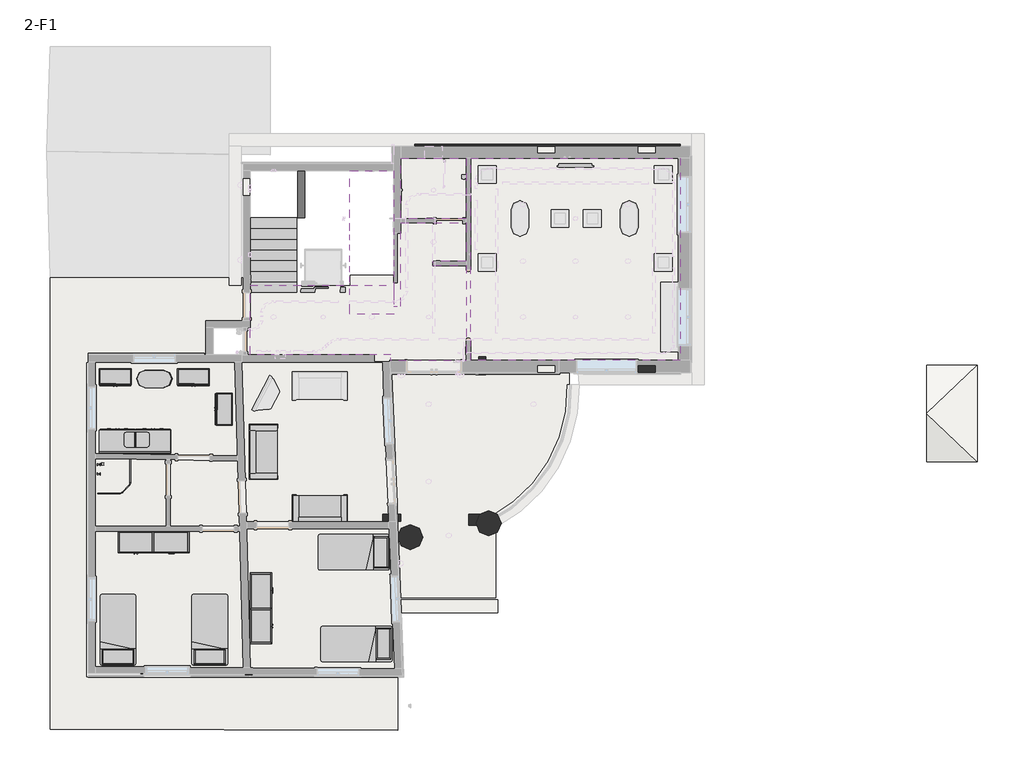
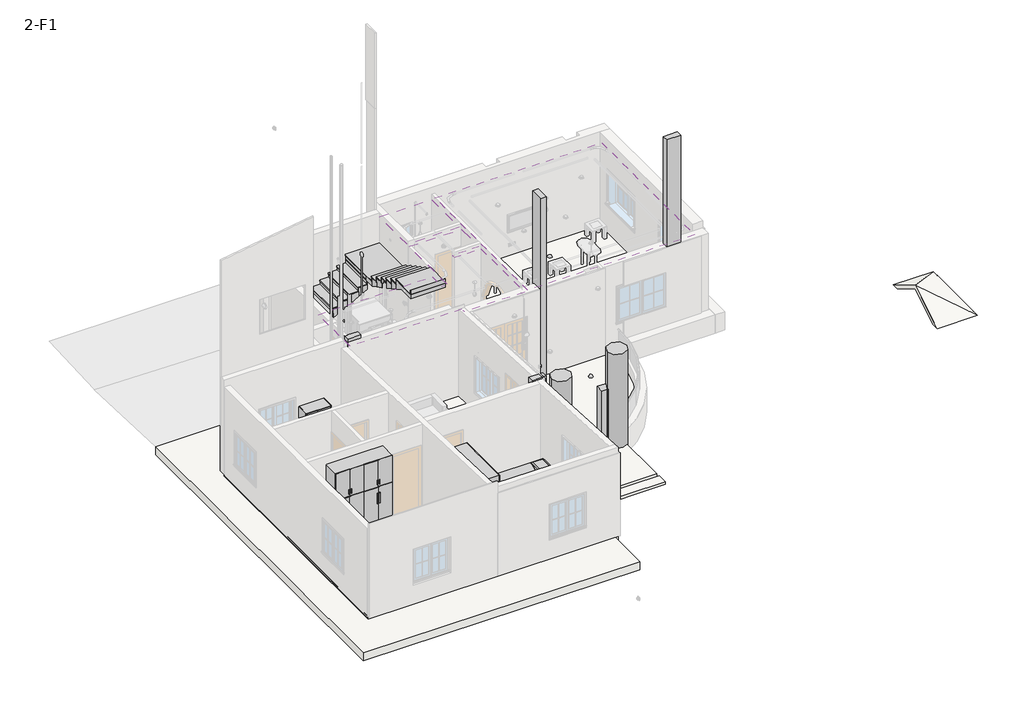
# One storey, part 3 of 6: 15 furniture elements, 7 columns, 3 coverings, 3 slabs, 3 stair flights, 2 flow terminals, 1 roof, 1 wall.
"""IFC4 building model written with IfcOpenShell, lengths in millimetres."""

from ifc_helpers import new_model, si_unit, point, frame, frame_2d, origin, place, context, project, spatial, polyline, circle_curve, trimmed, segment, composite_curve, outline, extrude, faceted_brep, transform, mapped, element, save
from components import bac_de_douche_au_sol_bac_de_douche_au_sol_997da0d4, cross_handle_shower_tap_set_3383_cross_handle_shower_tap_set_b0131e49, furniture_86dd63d7, furniture_1wardrobe_6271_1wardrobe_6271_757ea330, furniture_900mm_x_450mm_b3238755, bed_small_sizes_aus_single_small_9a9299e8, counter_top_w_sink_600mm_depth_2976168a, m_table_dining_oval_500x_1000mm_28df0ddd, vanity_cabinet_dbl_door_and_2_drawer_1000mm_7e6be740

model = new_model("IFC4")

# Units and contexts
model_context = context("Model", 3, world=origin())
ifc_project = project(units=[si_unit("LENGTHUNIT", "METRE", prefix="MILLI")], contexts=[model_context])

# Site, building, storey
site = spatial("IfcSite", under=ifc_project)
building = spatial("IfcBuilding", under=site)
storey = spatial("IfcBuildingStorey", under=building, Name="2-F1", Elevation=3000.0)

# Columns
placement = place(None, origin())
element("IfcColumn", 1, ObjectType="M_Concrete-Rectangular-Column : 200 x470mm", at=placement, inside=storey, context=model_context, shape_type="SweptSolid", body=[
    extrude(outline(polyline([(-5057.4765921, 3134.4560655), (-5057.4765921, 3334.4560655), (-4587.4765921, 3334.4560655), (-4587.4765921, 3134.4560655), (-5057.4765921, 3134.4560655)])), frame((0.0, 0.0, 3000.0), z_axis=(0.0, 0.0, 1.0), x_axis=(1.0, 0.0, 0.0)), (0.0, 0.0, 1.0), 3550.0),
])
element("IfcColumn", 2, ObjectType="M_Concrete-Rectangular-Column : 200 x500mm", at=placement, inside=storey, context=model_context, shape_type="Brep", body=[
    faceted_brep([(6542.5234079, 3030.6486583, 3000.0), (6542.5234079, 2830.6486583, 3000.0), (6042.5234079, 2830.6486583, 3000.0), (6042.5234079, 3030.6486583, 3000.0), (6542.5234079, 3030.6486583, 10300.0), (6542.5234079, 2830.6486583, 10300.0), (6542.5234079, 2830.6486583, 6300.0), (6542.5234079, 3030.6486583, 6300.0), (6542.5234079, 3030.6486583, 6550.0), (6542.5234079, 3030.6486583, 9900.0), (6042.5234079, 2830.6486583, 10300.0), (6042.5234079, 2830.6486583, 6300.0), (6042.5234079, 3030.6486583, 10300.0), (6042.5234079, 3030.6486583, 9900.0), (6042.5234079, 3030.6486583, 6550.0), (6042.5234079, 3030.6486583, 6300.0)], [[[0, 1, 2, 3]], [[4, 5, 6, 1, 0, 7, 8, 9]], [[5, 10, 11, 2, 1, 6]], [[10, 12, 13, 14, 15, 3, 2, 11]], [[12, 4, 9, 8, 7, 0, 3, 15, 14, 13]], [[4, 12, 10, 5]]]),
])
element("IfcColumn", 3, ObjectType="M_Concrete-Rectangular-Column : 200 x500mm", at=placement, inside=storey, context=model_context, shape_type="SweptSolid", body=[
    extrude(outline(polyline([(-1127.3482991, -1357.1632352), (-1127.3482991, -1157.1632352), (-627.3482991, -1157.1632352), (-627.3482991, -1357.1632352), (-1127.3482991, -1357.1632352)])), frame((0.0, 0.0, 3000.0), z_axis=(0.0, 0.0, 1.0), x_axis=(1.0, 0.0, 0.0)), (0.0, 0.0, 1.0), 3350.0),
])
element("IfcColumn", 4, ObjectType="M_Concrete-Rectangular-Column : 200 x500mm", at=placement, inside=storey, context=model_context, shape_type="SweptSolid", body=[
    extrude(outline(polyline([(1762.5234079, 2772.5523619), (1562.5234079, 2772.5523619), (1562.5234079, 3272.5523619), (1762.5234079, 3272.5523619), (1762.5234079, 2772.5523619)])), frame((0.0, 0.0, 3000.0), z_axis=(0.0, 0.0, 1.0), x_axis=(1.0, 0.0, 0.0)), (0.0, 0.0, 1.0), 6700.0),
])
element("IfcColumn", 5, ObjectType="M_Concrete-Rectangular-Column : 300 x300mm", at=placement, inside=storey, context=model_context, shape_type="SweptSolid", body=[
    extrude(outline(polyline([(1585.0321009, -1157.1632352), (1585.0321009, -1457.1632352), (1285.0321009, -1457.1632352), (1285.0321009, -1157.1632352), (1585.0321009, -1157.1632352)])), frame((0.0, 0.0, 3000.0), z_axis=(0.0, 0.0, 1.0), x_axis=(1.0, 0.0, 0.0)), (0.0, 0.0, 1.0), 2170.0),
])
element("IfcColumn", 6, ObjectType="M_Concrete-Round-Column : 700mm", at=placement, inside=storey, context=model_context, shape_type="SweptSolid", body=[
    extrude(outline(composite_curve([segment(trimmed(circle_curve(frame_2d((1841.661449, -1407.3470383)), 350.0), [point((2191.661449, -1407.3470383))], [point((1491.661449, -1407.3470383))], False, "CARTESIAN"), True, "CONTINUOUS"), segment(trimmed(circle_curve(frame_2d((1841.661449, -1407.3470383)), 350.0), [point((1491.661449, -1407.3470383))], [point((2191.661449, -1407.3470383))], False, "CARTESIAN"), True, "CONTINUOUS")], self_intersect=False)), frame((0.0, 0.0, 3000.0), z_axis=(0.0, 0.0, 1.0), x_axis=(1.0, 0.0, 0.0)), (0.0, 0.0, 1.0), 3550.0),
])
element("IfcColumn", 7, ObjectType="M_Concrete-Round-Column : 700mm", at=placement, inside=storey, context=model_context, shape_type="SweptSolid", body=[
    extrude(outline(composite_curve([segment(trimmed(circle_curve(frame_2d((-361.9654842, -1796.5977201)), 350.0), [point((-711.9654842, -1796.5977201))], [point((-11.9654842, -1796.5977201))], False, "CARTESIAN"), True, "CONTINUOUS"), segment(trimmed(circle_curve(frame_2d((-361.9654842, -1796.5977201)), 350.0), [point((-11.9654842, -1796.5977201))], [point((-711.9654842, -1796.5977201))], False, "CARTESIAN"), True, "CONTINUOUS")], self_intersect=False)), frame((0.0, 0.0, 3000.0), z_axis=(0.0, 0.0, 1.0), x_axis=(1.0, 0.0, 0.0)), (0.0, 0.0, 1.0), 3550.0),
])

# Coverings
element("IfcCovering", 8, ObjectType="Plain", at=placement, inside=storey, context=model_context, shape_type="SweptSolid", body=[
    extrude(outline(polyline([(1335.5234079, 8861.6620874), (7235.5234079, 8861.6620874), (7235.5234079, 3170.6486583), (1335.5234079, 3170.6486583), (1335.5234079, 8861.6620874)]), holes=[composite_curve([segment(trimmed(circle_curve(frame_2d((5760.5234079, 4390.5529852)), 55.0), [point((5815.5234079, 4390.5529852))], [point((5705.5234079, 4390.5529852))], True, "CARTESIAN"), True, "CONTINUOUS"), segment(trimmed(circle_curve(frame_2d((5760.5234079, 4390.5529852)), 55.0), [point((5705.5234079, 4390.5529852))], [point((5815.5234079, 4390.5529852))], True, "CARTESIAN"), True, "CONTINUOUS")], self_intersect=False), composite_curve([segment(trimmed(circle_curve(frame_2d((5760.5234079, 5961.6620874)), 55.0), [point((5815.5234079, 5961.6620874))], [point((5705.5234079, 5961.6620874))], True, "CARTESIAN"), True, "CONTINUOUS"), segment(trimmed(circle_curve(frame_2d((5760.5234079, 5961.6620874)), 55.0), [point((5705.5234079, 5961.6620874))], [point((5815.5234079, 5961.6620874))], True, "CARTESIAN"), True, "CONTINUOUS")], self_intersect=False), composite_curve([segment(trimmed(circle_curve(frame_2d((5760.5234079, 7558.7168012)), 55.0), [point((5815.5234079, 7558.7168012))], [point((5705.5234079, 7558.7168012))], True, "CARTESIAN"), True, "CONTINUOUS"), segment(trimmed(circle_curve(frame_2d((5760.5234079, 7558.7168012)), 55.0), [point((5705.5234079, 7558.7168012))], [point((5815.5234079, 7558.7168012))], True, "CARTESIAN"), True, "CONTINUOUS")], self_intersect=False), composite_curve([segment(trimmed(circle_curve(frame_2d((2810.5234079, 4390.5529852)), 55.0), [point((2865.5234079, 4390.5529852))], [point((2755.5234079, 4390.5529852))], True, "CARTESIAN"), True, "CONTINUOUS"), segment(trimmed(circle_curve(frame_2d((2810.5234079, 4390.5529852)), 55.0), [point((2755.5234079, 4390.5529852))], [point((2865.5234079, 4390.5529852))], True, "CARTESIAN"), True, "CONTINUOUS")], self_intersect=False), composite_curve([segment(trimmed(circle_curve(frame_2d((2810.5234079, 5961.6620874)), 55.0), [point((2865.5234079, 5961.6620874))], [point((2755.5234079, 5961.6620874))], True, "CARTESIAN"), True, "CONTINUOUS"), segment(trimmed(circle_curve(frame_2d((2810.5234079, 5961.6620874)), 55.0), [point((2755.5234079, 5961.6620874))], [point((2865.5234079, 5961.6620874))], True, "CARTESIAN"), True, "CONTINUOUS")], self_intersect=False), composite_curve([segment(trimmed(circle_curve(frame_2d((2810.5234079, 7558.7168012)), 55.0), [point((2865.5234079, 7558.7168012))], [point((2755.5234079, 7558.7168012))], True, "CARTESIAN"), True, "CONTINUOUS"), segment(trimmed(circle_curve(frame_2d((2810.5234079, 7558.7168012)), 55.0), [point((2755.5234079, 7558.7168012))], [point((2865.5234079, 7558.7168012))], True, "CARTESIAN"), True, "CONTINUOUS")], self_intersect=False), composite_curve([segment(trimmed(circle_curve(frame_2d((4285.5234079, 5961.6620874)), 55.0), [point((4340.5234079, 5961.6620874))], [point((4230.5234079, 5961.6620874))], True, "CARTESIAN"), True, "CONTINUOUS"), segment(trimmed(circle_curve(frame_2d((4285.5234079, 5961.6620874)), 55.0), [point((4230.5234079, 5961.6620874))], [point((4340.5234079, 5961.6620874))], True, "CARTESIAN"), True, "CONTINUOUS")], self_intersect=False)]), frame((0.0, 0.0, 6123.0), z_axis=(0.0, 0.0, 1.0), x_axis=(1.0, 0.0, 0.0)), (0.0, 0.0, 1.0), 12.0),
])
element("IfcCovering", 9, ObjectType="Plain", at=placement, inside=storey, context=model_context, shape_type="SweptSolid", body=[
    extrude(outline(polyline([(1215.5234079, 8861.6620874), (1215.5234079, 7161.6620874), (-627.4765921, 7161.6620874), (-627.4765921, 8861.6620874), (1215.5234079, 8861.6620874)])), frame((0.0, 0.0, 6100.0), z_axis=(0.0, 0.0, 1.0), x_axis=(1.0, 0.0, 0.0)), (0.0, 0.0, 1.0), 12.0),
])
element("IfcCovering", 10, ObjectType="Plain", at=placement, inside=storey, context=model_context, shape_type="SweptSolid", body=[
    extrude(outline(polyline([(1215.5234079, 7041.6620874), (1215.5234079, 5961.6620874), (272.5234079, 5961.6620874), (272.5234079, 5841.6620874), (1215.5234079, 5841.6620874), (1215.5234079, 3162.6789159), (-900.5286579, 3162.6789159), (-905.419474, 3326.4863231), (-4857.4765921, 3326.4863231), (-4857.4765921, 5284.4560655), (-827.4765921, 5284.4560655), (-827.4765921, 4701.6620874), (-627.4765921, 4701.6620874), (-627.4765921, 7041.6620874), (1215.5234079, 7041.6620874)]), holes=[composite_curve([segment(trimmed(circle_curve(frame_2d((-1442.4765921, 4390.5529852)), 75.0), [point((-1517.4765921, 4390.5529852))], [point((-1367.4765921, 4390.5529852))], True, "CARTESIAN"), True, "CONTINUOUS"), segment(trimmed(circle_curve(frame_2d((-1442.4765921, 4390.5529852)), 75.0), [point((-1367.4765921, 4390.5529852))], [point((-1517.4765921, 4390.5529852))], True, "CARTESIAN"), True, "CONTINUOUS")], self_intersect=False), composite_curve([segment(trimmed(circle_curve(frame_2d((-4207.4765921, 4390.5529852)), 75.0), [point((-4282.4765921, 4390.5529852))], [point((-4132.4765921, 4390.5529852))], True, "CARTESIAN"), True, "CONTINUOUS"), segment(trimmed(circle_curve(frame_2d((-4207.4765921, 4390.5529852)), 75.0), [point((-4132.4765921, 4390.5529852))], [point((-4282.4765921, 4390.5529852))], True, "CARTESIAN"), True, "CONTINUOUS")], self_intersect=False), composite_curve([segment(trimmed(circle_curve(frame_2d((294.0234079, 6501.6620874)), 75.0), [point((219.0234079, 6501.6620874))], [point((369.0234079, 6501.6620874))], True, "CARTESIAN"), True, "CONTINUOUS"), segment(trimmed(circle_curve(frame_2d((294.0234079, 6501.6620874)), 75.0), [point((369.0234079, 6501.6620874))], [point((219.0234079, 6501.6620874))], True, "CARTESIAN"), True, "CONTINUOUS")], self_intersect=False)]), frame((0.0, 0.0, 6100.0), z_axis=(0.0, 0.0, 1.0), x_axis=(1.0, 0.0, 0.0)), (0.0, 0.0, 1.0), 12.0),
])

# Flow terminals
bac_de_douche_au_sol_bac_de_douche_au_sol_shape = bac_de_douche_au_sol_bac_de_douche_au_sol_997da0d4(model_context)
element("IfcFlowTerminal", 11, ObjectType="Bac de douche au sol : Bac de douche au sol", at=placement, inside=storey, context=model_context, shape_type="MappedRepresentation", body=[
    mapped(bac_de_douche_au_sol_bac_de_douche_au_sol_shape, transform((-9153.0745328, 409.1211324, 3000.0), x_axis=(-1.0, 0.0, 0.0), y_axis=(0.0, -1.0, 0.0), z_axis=(0.0, 0.0, 1.0))),
])
cross_handle_shower_tap_set_3383_cross_handle_shower_tap_set_shape = cross_handle_shower_tap_set_3383_cross_handle_shower_tap_set_b0131e49(model_context)
element("IfcFlowTerminal", 12, ObjectType="cross_handle_shower_tap_set_3383 : cross_handle_shower_tap_set_3383", at=placement, inside=storey, context=model_context, shape_type="MappedRepresentation", body=[
    mapped(cross_handle_shower_tap_set_3383_cross_handle_shower_tap_set_shape, transform((-9160.0404392, 111.9069434, 3000.0), x_axis=(0.0, -1.0, 0.0), y_axis=(1.0, 0.0, 0.0), z_axis=(0.0, 0.0, 1.0))),
])

# Furniture
furniture_shape = furniture_86dd63d7(model_context)
element("IfcFurniture", 13, ObjectType="Couch_-_Le_Corbusier_Family_-_1_2_3_seater_9476 : 2 posti", at=placement, inside=storey, context=model_context, shape_type="MappedRepresentation", body=[
    mapped(furniture_shape, transform((-4657.4765921, 600.0, 3000.0), x_axis=(0.0, 1.0, 0.0), y_axis=(-1.0, 0.0, 0.0), z_axis=(0.0, 0.0, 1.0))),
])
element("IfcFurniture", 14, ObjectType="Couch_-_Le_Corbusier_Family_-_1_2_3_seater_9476 : 2 posti", at=placement, inside=storey, context=model_context, shape_type="MappedRepresentation", body=[
    mapped(furniture_shape, transform((-2900.8161495, -1181.5110619, 3000.0), x_axis=(-1.0, 0.0, 0.0), y_axis=(0.0, -1.0, 0.0), z_axis=(0.0, 0.0, 1.0))),
])
furniture_1wardrobe_6271_1wardrobe_6271_shape = furniture_1wardrobe_6271_1wardrobe_6271_757ea330(model_context)
element("IfcFurniture", 15, ObjectType="1Wardrobe_6271 : 1Wardrobe_6271", at=placement, inside=storey, context=model_context, shape_type="MappedRepresentation", body=[
    mapped(furniture_1wardrobe_6271_1wardrobe_6271_shape, transform((-8579.3966327, -1638.0930566, 3000.0), x_axis=(1.0, 0.0, 0.0), y_axis=(0.0, 1.0, 0.0), z_axis=(0.0, 0.0, 1.0))),
])
element("IfcFurniture", 16, ObjectType="1Wardrobe_6271 : 1Wardrobe_6271", at=placement, inside=storey, context=model_context, shape_type="MappedRepresentation", body=[
    mapped(furniture_1wardrobe_6271_1wardrobe_6271_shape, transform((-4857.4765921, -4800.0, 3000.0), x_axis=(0.0, 1.0, 0.0), y_axis=(-1.0, 0.0, 0.0), z_axis=(0.0, 0.0, 1.0))),
])
furniture_900mm_x_450mm_shape = furniture_900mm_x_450mm_b3238755(model_context)
element("IfcFurniture", 17, ObjectType="Bibliothèque armoire - Portes vitrées : 900mm x 450mm", at=placement, inside=storey, context=model_context, shape_type="MappedRepresentation", body=[
    mapped(furniture_900mm_x_450mm_shape, transform((-8757.4765921, 2659.4560655, 3000.0), x_axis=(1.0, 0.0, 0.0), y_axis=(0.0, 1.0, 0.0), z_axis=(0.0, 0.0, 1.0))),
])
element("IfcFurniture", 18, ObjectType="Bibliothèque armoire - Portes vitrées : 900mm x 450mm", at=placement, inside=storey, context=model_context, shape_type="MappedRepresentation", body=[
    mapped(furniture_900mm_x_450mm_shape, transform((-6557.4765921, 2659.4560655, 3000.0), x_axis=(1.0, 0.0, 0.0), y_axis=(0.0, 1.0, 0.0), z_axis=(0.0, 0.0, 1.0))),
])
element("IfcFurniture", 19, ObjectType="Bibliothèque armoire - Portes vitrées : 900mm x 450mm", at=placement, inside=storey, context=model_context, shape_type="MappedRepresentation", body=[
    mapped(furniture_900mm_x_450mm_shape, transform((-5647.9525349, 1900.0, 3000.0), x_axis=(0.0, -1.0, 0.0), y_axis=(1.0, 0.0, 0.0), z_axis=(0.0, 0.0, 1.0))),
])
bed_small_sizes_aus_single_small_shape = bed_small_sizes_aus_single_small_9a9299e8(model_context)
element("IfcFurniture", 20, ObjectType="Bed - Small Sizes (AUS) : Single small", at=placement, inside=storey, context=model_context, shape_type="MappedRepresentation", body=[
    mapped(bed_small_sizes_aus_single_small_shape, transform((-873.6704589, -4822.6740095, 3000.0), x_axis=(0.0, -1.0, 0.0), y_axis=(1.0, 0.0, 0.0), z_axis=(0.0, 0.0, 1.0))),
])
element("IfcFurniture", 21, ObjectType="Bed - Small Sizes (AUS) : Single small", at=placement, inside=storey, context=model_context, shape_type="MappedRepresentation", body=[
    mapped(bed_small_sizes_aus_single_small_shape, transform((-947.107039, -2243.4058395, 3000.0), x_axis=(0.0, -1.0, 0.0), y_axis=(1.0, 0.0, 0.0), z_axis=(0.0, 0.0, 1.0))),
])
element("IfcFurniture", 22, ObjectType="Bed - Small Sizes (AUS) : Single small", at=placement, inside=storey, context=model_context, shape_type="MappedRepresentation", body=[
    mapped(bed_small_sizes_aus_single_small_shape, transform((-8602.0706422, -5400.0, 3000.0), x_axis=(-1.0, 0.0, 0.0), y_axis=(0.0, -1.0, 0.0), z_axis=(0.0, 0.0, 1.0))),
])
element("IfcFurniture", 23, ObjectType="Bed - Small Sizes (AUS) : Single small", at=placement, inside=storey, context=model_context, shape_type="MappedRepresentation", body=[
    mapped(bed_small_sizes_aus_single_small_shape, transform((-6022.6740095, -5400.0, 3000.0), x_axis=(-1.0, 0.0, 0.0), y_axis=(0.0, -1.0, 0.0), z_axis=(0.0, 0.0, 1.0))),
])
counter_top_w_sink_600mm_depth_shape = counter_top_w_sink_600mm_depth_2976168a(model_context)
element("IfcFurniture", 24, ObjectType="Counter Top w Sink : 600mm Depth", at=placement, inside=storey, context=model_context, shape_type="MappedRepresentation", body=[
    mapped(counter_top_w_sink_600mm_depth_shape, transform((-8306.1670421, 579.827536, 3000.0), x_axis=(-1.0, 0.0, 0.0), y_axis=(0.0, -1.0, 0.0), z_axis=(0.0, 0.0, 1.0))),
])
m_table_dining_oval_500x_1000mm_shape = m_table_dining_oval_500x_1000mm_28df0ddd(model_context)
element("IfcFurniture", 25, ObjectType="M_Table-Dining Oval : 500x 1000mm", at=placement, inside=storey, context=model_context, shape_type="MappedRepresentation", body=[
    mapped(m_table_dining_oval_500x_1000mm_shape, transform((-7155.946773, 3008.0983607, 3000.0), x_axis=(1.0, 0.0, 0.0), y_axis=(0.0, 1.0, 0.0), z_axis=(0.0, 0.0, 1.0))),
])
vanity_cabinet_dbl_door_and_2_drawer_1000mm_shape = vanity_cabinet_dbl_door_and_2_drawer_1000mm_7e6be740(model_context)
element("IfcFurniture", 26, ObjectType="Vanity Cabinet - Dbl Door and 2 Drawer : 1000mm", at=placement, inside=storey, context=model_context, shape_type="MappedRepresentation", body=[
    mapped(vanity_cabinet_dbl_door_and_2_drawer_1000mm_shape, transform((-8576.2142971, 559.827536, 3000.0), x_axis=(-1.0, 0.0, 0.0), y_axis=(0.0, -1.0, 0.0), z_axis=(0.0, 0.0, 1.0))),
])
element("IfcFurniture", 27, ObjectType="Vanity Cabinet - Dbl Door and 2 Drawer : 1000mm", at=placement, inside=storey, context=model_context, shape_type="MappedRepresentation", body=[
    mapped(vanity_cabinet_dbl_door_and_2_drawer_1000mm_shape, transform((-7576.2142971, 559.827536, 3000.0), x_axis=(-1.0, 0.0, 0.0), y_axis=(0.0, -1.0, 0.0), z_axis=(0.0, 0.0, 1.0))),
])

# Roof
element("IfcRoof", 28, ObjectType="Generic - 125mm", at=placement, inside=storey, context=model_context, shape_type="Brep", body=[
    faceted_brep([(14169.4996553, 1679.1737113, 2569.8944149), (15332.7936788, 2785.2573228, 1915.1528001), (15336.026366, 2788.3310275, 1913.3333333), (15336.026366, 570.0163952, 1913.3333333), (15332.7936788, 573.0900999, 1915.1528001), (14169.4996553, 573.0900999, 1915.1528001), (14169.4996553, 2785.2573228, 1915.1528001), (15587.6448029, 3030.6486583, 1915.1528001), (14169.4996553, 1682.247416, 2713.3333333), (14169.4996553, 1676.1000067, 2713.3333333), (15587.6448029, 327.6987644, 1915.1528001), (15587.6448029, 573.0900999, 1915.1528001), (15590.87749, 570.0163952, 1913.3333333), (15590.87749, 2788.3310275, 1913.3333333), (15587.6448029, 2785.2573228, 1915.1528001), (14169.4996553, 327.6987644, 1915.1528001), (14169.4996553, 3030.6486583, 1915.1528001)], [[[0, 1, 2, 3, 4]], [[0, 4, 5]], [[1, 0, 6]], [[7, 8, 9, 10, 11, 12, 13, 14]], [[10, 9, 15]], [[8, 7, 16]], [[9, 8, 16, 6, 0, 5, 15]], [[14, 1, 6, 16, 7]], [[1, 14, 13, 2]], [[4, 11, 10, 15, 5]], [[11, 4, 3, 12]], [[3, 2, 13, 12]]]),
])

# Slabs
element("IfcSlab", 29, ObjectType="Arch Floor on F1 300mm", at=placement, inside=storey, context=model_context, shape_type="SweptSolid", body=[
    extrude(outline(composite_curve([segment(polyline([(-9417.4765921, -2071.7376462), (-9417.4765921, 3334.4560655), (-5907.4765921, 3334.4560655), (-5907.4765921, 3134.4560655), (-5057.4765921, 3134.4560655), (-5057.4765921, 4084.4560655), (-5057.4765921, 4599.8845983), (-5057.4765921, 8701.6620874), (-827.4765921, 8701.6620874), (-827.4765921, 9201.6620874), (-627.4765921, 9201.6620874), (3212.5234079, 9201.6620874), (3712.5234079, 9201.6620874), (6042.5234079, 9201.6620874), (6542.5234079, 9201.6620874), (7042.5280203, 9201.6620874), (7235.5234079, 9201.6620874), (7235.5234079, 8861.6620874), (7235.5234079, 2899.8015953), (7147.8774899, 2899.8015953), (7147.8774899, 2830.6486583), (4103.8034592, 2830.6486583)]), True, "CONTINUOUS"), segment(trimmed(circle_curve(frame_2d((61.178433, 2319.2750863)), 4074.8398782), [point((4103.8034592, 2830.6486583))], [point((2046.2805902, -1239.3327115))], False, "CARTESIAN"), True, "CONTINUOUS"), segment(polyline([(2046.2805902, -1239.3327115), (2046.2805902, -3502.0661424), (-702.5746226, -3502.0661424), (-587.99344, -5705.3167452), (-9417.4765921, -5625.3267977), (-9417.4765921, -2071.7376462)]), True, "CONTINUOUS")], self_intersect=False), holes=[polyline([(-4857.4765921, 8501.6620874), (-4857.4765921, 5484.4560655), (-3557.4765921, 5484.4560655), (-3557.4765921, 5284.4560655), (-2057.4765921, 5284.4560655), (-2057.4765921, 5584.4560655), (-827.4765921, 5584.4560655), (-827.4765921, 8501.6620874), (-4857.4765921, 8501.6620874)])]), frame((0.0, 0.0, 2750.0), z_axis=(0.0, 0.0, 1.0), x_axis=(1.0, 0.0, 0.0)), (0.0, 0.0, 1.0), 300.0),
])
element("IfcSlab", 30, ObjectType="Generic 100", at=placement, inside=storey, context=model_context, shape_type="SweptSolid", body=[
    extrude(outline(polyline([(2096.2825594, -3552.0661424), (2096.2825594, -3927.0661424), (-648.4232052, -3927.0661424), (-659.1001553, -3552.0661424), (2096.2825594, -3552.0661424)])), frame((0.0, 0.0, 2900.0), z_axis=(0.0, 0.0, 1.0), x_axis=(1.0, 0.0, 0.0)), (0.0, 0.0, 1.0), 100.0),
])
element("IfcSlab", 31, ObjectType="Generic 250mm", at=placement, inside=storey, context=model_context, shape_type="SweptSolid", body=[
    extrude(outline(polyline([(-709.3951562, -7229.5418342), (-10479.3966327, -7201.305082), (-10479.3966327, 5498.694918), (-5057.4765921, 5498.694918), (-5057.4765921, 4084.4560655), (-6107.4765921, 4084.4560655), (-6107.4765921, 3126.4863231), (-9467.4765921, 3126.4863231), (-9467.4765921, -5734.0873245), (-709.3951562, -5734.0873245), (-709.3951562, -7229.5418342)])), frame((0.0, 0.0, 2700.0), z_axis=(0.0, 0.0, 1.0), x_axis=(1.0, 0.0, 0.0)), (0.0, 0.0, 1.0), 300.0),
])

# Stair flights
element("IfcStairFlight", 32, ObjectType="150mm Depth", at=placement, inside=storey, context=model_context, shape_type="SolidModel", body=[
    faceted_brep([(-4857.4765921, 5416.9560655, 3131.3636364), (-4857.4765921, 5116.9560655, 3131.3636364), (-3557.4765921, 5116.9560655, 3131.3636364), (-3557.4765921, 5416.9560655, 3131.3636364), (-4857.4765921, 5416.9560655, 3000.0), (-4857.4765921, 5116.9560655, 3000.0), (-3557.4765921, 5116.9560655, 3000.0), (-3557.4765921, 5416.9560655, 3000.0), (-4857.4765921, 5716.9560655, 3292.7272727), (-4857.4765921, 5416.9560655, 3292.7272727), (-3557.4765921, 5416.9560655, 3292.7272727), (-3557.4765921, 5716.9560655, 3292.7272727), (-4857.4765921, 5716.9560655, 3122.4053546), (-4857.4765921, 5489.385547, 3000.0), (-3557.4765921, 5489.385547, 3000.0), (-3557.4765921, 5716.9560655, 3122.4053546), (-4857.4765921, 6016.9560655, 3454.0909091), (-4857.4765921, 5716.9560655, 3454.0909091), (-3557.4765921, 5716.9560655, 3454.0909091), (-3557.4765921, 6016.9560655, 3454.0909091), (-4857.4765921, 6016.9560655, 3283.768991), (-3557.4765921, 6016.9560655, 3283.768991), (-4857.4765921, 6316.9560655, 3615.4545455), (-4857.4765921, 6016.9560655, 3615.4545455), (-3557.4765921, 6016.9560655, 3615.4545455), (-3557.4765921, 6316.9560655, 3615.4545455), (-4857.4765921, 6316.9560655, 3445.1326274), (-3557.4765921, 6316.9560655, 3445.1326274), (-4857.4765921, 6616.9560655, 3776.8181818), (-4857.4765921, 6316.9560655, 3776.8181818), (-3557.4765921, 6316.9560655, 3776.8181818), (-3557.4765921, 6616.9560655, 3776.8181818), (-4857.4765921, 6616.9560655, 3606.4962637), (-3557.4765921, 6616.9560655, 3606.4962637), (-4857.4765921, 6916.9560655, 3938.1818182), (-4857.4765921, 6616.9560655, 3938.1818182), (-3557.4765921, 6616.9560655, 3938.1818182), (-3557.4765921, 6916.9560655, 3938.1818182), (-4857.4765921, 6916.9560655, 3767.8599001), (-3557.4765921, 6916.9560655, 3767.8599001), (-4857.4765921, 7184.4560655, 3911.7424758), (-3557.4765921, 7184.4560655, 3911.7424758), (-4857.4765921, 7184.4560655, 4099.5454545), (-4857.4765921, 6916.9560655, 4099.5454545), (-3557.4765921, 6916.9560655, 4099.5454545), (-3557.4765921, 7184.4560655, 4099.5454545)], [[[0, 1, 2, 3]], [[1, 0, 4, 5]], [[2, 1, 5, 6]], [[3, 2, 6, 7]], [[8, 9, 10, 11]], [[4, 0, 9, 8, 12, 13]], [[0, 3, 10, 9]], [[3, 7, 14, 15, 11, 10]], [[16, 17, 18, 19]], [[17, 16, 20, 12, 8]], [[8, 11, 18, 17]], [[19, 18, 11, 15, 21]], [[22, 23, 24, 25]], [[23, 22, 26, 20, 16]], [[16, 19, 24, 23]], [[25, 24, 19, 21, 27]], [[28, 29, 30, 31]], [[29, 28, 32, 26, 22]], [[22, 25, 30, 29]], [[31, 30, 25, 27, 33]], [[34, 35, 36, 37]], [[35, 34, 38, 32, 28]], [[28, 31, 36, 35]], [[37, 36, 31, 33, 39]], [[5, 4, 13, 14, 7, 6]], [[14, 13, 12, 20, 26, 32, 38, 40, 41, 39, 33, 27, 21, 15]], [[42, 43, 44, 45]], [[43, 42, 40, 38, 34]], [[34, 37, 44, 43]], [[45, 44, 37, 39, 41]], [[42, 45, 41, 40]]]),
    extrude(outline(polyline([(-3557.4765921, 5116.9560655), (-3557.4765921, 5104.4560655), (-4857.4765921, 5104.4560655), (-4857.4765921, 5116.9560655), (-3557.4765921, 5116.9560655)])), frame((0.0, 0.0, 3000.0), z_axis=(0.0, 0.0, 1.0), x_axis=(1.0, 0.0, 0.0)), (0.0, 0.0, 1.0), 131.3636364),
    extrude(outline(polyline([(-4857.4765921, 5404.4560655), (-3557.4765921, 5404.4560655), (-3557.4765921, 5084.4560655), (-4857.4765921, 5084.4560655), (-4857.4765921, 5404.4560655)])), frame((0.0, 0.0, 3131.3636364), z_axis=(0.0, 0.0, 1.0), x_axis=(1.0, 0.0, 0.0)), (0.0, 0.0, 1.0), 30.0),
    extrude(outline(polyline([(-3557.4765921, 5416.9560655), (-3557.4765921, 5404.4560655), (-4857.4765921, 5404.4560655), (-4857.4765921, 5416.9560655), (-3557.4765921, 5416.9560655)])), frame((0.0, 0.0, 3131.3636364), z_axis=(0.0, 0.0, 1.0), x_axis=(1.0, 0.0, 0.0)), (0.0, 0.0, 1.0), 161.3636364),
    extrude(outline(polyline([(-4857.4765921, 5704.4560655), (-3557.4765921, 5704.4560655), (-3557.4765921, 5384.4560655), (-4857.4765921, 5384.4560655), (-4857.4765921, 5704.4560655)])), frame((0.0, 0.0, 3292.7272727), z_axis=(0.0, 0.0, 1.0), x_axis=(1.0, 0.0, 0.0)), (0.0, 0.0, 1.0), 30.0),
    extrude(outline(polyline([(-3557.4765921, 5716.9560655), (-3557.4765921, 5704.4560655), (-4857.4765921, 5704.4560655), (-4857.4765921, 5716.9560655), (-3557.4765921, 5716.9560655)])), frame((0.0, 0.0, 3292.7272727), z_axis=(0.0, 0.0, 1.0), x_axis=(1.0, 0.0, 0.0)), (0.0, 0.0, 1.0), 161.3636364),
    extrude(outline(polyline([(-4857.4765921, 6004.4560655), (-3557.4765921, 6004.4560655), (-3557.4765921, 5684.4560655), (-4857.4765921, 5684.4560655), (-4857.4765921, 6004.4560655)])), frame((0.0, 0.0, 3454.0909091), z_axis=(0.0, 0.0, 1.0), x_axis=(1.0, 0.0, 0.0)), (0.0, 0.0, 1.0), 30.0),
    extrude(outline(polyline([(-3557.4765921, 6016.9560655), (-3557.4765921, 6004.4560655), (-4857.4765921, 6004.4560655), (-4857.4765921, 6016.9560655), (-3557.4765921, 6016.9560655)])), frame((0.0, 0.0, 3454.0909091), z_axis=(0.0, 0.0, 1.0), x_axis=(1.0, 0.0, 0.0)), (0.0, 0.0, 1.0), 161.3636364),
    extrude(outline(polyline([(-4857.4765921, 6304.4560655), (-3557.4765921, 6304.4560655), (-3557.4765921, 5984.4560655), (-4857.4765921, 5984.4560655), (-4857.4765921, 6304.4560655)])), frame((0.0, 0.0, 3615.4545455), z_axis=(0.0, 0.0, 1.0), x_axis=(1.0, 0.0, 0.0)), (0.0, 0.0, 1.0), 30.0),
    extrude(outline(polyline([(-3557.4765921, 6316.9560655), (-3557.4765921, 6304.4560655), (-4857.4765921, 6304.4560655), (-4857.4765921, 6316.9560655), (-3557.4765921, 6316.9560655)])), frame((0.0, 0.0, 3615.4545455), z_axis=(0.0, 0.0, 1.0), x_axis=(1.0, 0.0, 0.0)), (0.0, 0.0, 1.0), 161.3636364),
    extrude(outline(polyline([(-4857.4765921, 6604.4560655), (-3557.4765921, 6604.4560655), (-3557.4765921, 6284.4560655), (-4857.4765921, 6284.4560655), (-4857.4765921, 6604.4560655)])), frame((0.0, 0.0, 3776.8181818), z_axis=(0.0, 0.0, 1.0), x_axis=(1.0, 0.0, 0.0)), (0.0, 0.0, 1.0), 30.0),
    extrude(outline(polyline([(-3557.4765921, 6616.9560655), (-3557.4765921, 6604.4560655), (-4857.4765921, 6604.4560655), (-4857.4765921, 6616.9560655), (-3557.4765921, 6616.9560655)])), frame((0.0, 0.0, 3776.8181818), z_axis=(0.0, 0.0, 1.0), x_axis=(1.0, 0.0, 0.0)), (0.0, 0.0, 1.0), 161.3636364),
    extrude(outline(polyline([(-4857.4765921, 6904.4560655), (-3557.4765921, 6904.4560655), (-3557.4765921, 6584.4560655), (-4857.4765921, 6584.4560655), (-4857.4765921, 6904.4560655)])), frame((0.0, 0.0, 3938.1818182), z_axis=(0.0, 0.0, 1.0), x_axis=(1.0, 0.0, 0.0)), (0.0, 0.0, 1.0), 30.0),
    extrude(outline(polyline([(-3557.4765921, 6916.9560655), (-3557.4765921, 6904.4560655), (-4857.4765921, 6904.4560655), (-4857.4765921, 6916.9560655), (-3557.4765921, 6916.9560655)])), frame((0.0, 0.0, 3938.1818182), z_axis=(0.0, 0.0, 1.0), x_axis=(1.0, 0.0, 0.0)), (0.0, 0.0, 1.0), 161.3636364),
    extrude(outline(polyline([(-4857.4765921, 7184.4560655), (-3557.4765921, 7184.4560655), (-3557.4765921, 6884.4560655), (-4857.4765921, 6884.4560655), (-4857.4765921, 7184.4560655)])), frame((0.0, 0.0, 4099.5454545), z_axis=(0.0, 0.0, 1.0), x_axis=(1.0, 0.0, 0.0)), (0.0, 0.0, 1.0), 30.0),
])
element("IfcStairFlight", 33, ObjectType="150mm Depth", at=placement, inside=storey, context=model_context, shape_type="SolidModel", body=[
    faceted_brep([(-3224.9765921, 8501.6620874, 4422.2727273), (-3524.9765921, 8501.6620874, 4422.2727273), (-3524.9765921, 7184.4560655, 4422.2727273), (-3224.9765921, 7184.4560655, 4422.2727273), (-3224.9765921, 8501.6620874, 4251.9508092), (-3524.9765921, 8501.6620874, 4090.5871728), (-3524.9765921, 7184.4560655, 4090.5871728), (-3224.9765921, 7184.4560655, 4251.9508092), (-2924.9765921, 8501.6620874, 4583.6363636), (-3224.9765921, 8501.6620874, 4583.6363636), (-3224.9765921, 7184.4560655, 4583.6363636), (-2924.9765921, 7184.4560655, 4583.6363636), (-2924.9765921, 8501.6620874, 4413.3144455), (-2924.9765921, 7184.4560655, 4413.3144455), (-2624.9765921, 8501.6620874, 4745.0), (-2924.9765921, 8501.6620874, 4745.0), (-2924.9765921, 7184.4560655, 4745.0), (-2624.9765921, 7184.4560655, 4745.0), (-2624.9765921, 8501.6620874, 4574.6780819), (-2624.9765921, 7184.4560655, 4574.6780819), (-2324.9765921, 8501.6620874, 4906.3636364), (-2624.9765921, 8501.6620874, 4906.3636364), (-2624.9765921, 7184.4560655, 4906.3636364), (-2324.9765921, 7184.4560655, 4906.3636364), (-2324.9765921, 8501.6620874, 4736.0417183), (-2324.9765921, 7184.4560655, 4736.0417183), (-2024.9765921, 8501.6620874, 5067.7272727), (-2324.9765921, 8501.6620874, 5067.7272727), (-2324.9765921, 7184.4560655, 5067.7272727), (-2024.9765921, 7184.4560655, 5067.7272727), (-2024.9765921, 8501.6620874, 4897.4053546), (-2024.9765921, 7184.4560655, 4897.4053546)], [[[0, 1, 2, 3]], [[1, 0, 4, 5]], [[2, 1, 5, 6]], [[3, 2, 6, 7]], [[8, 9, 10, 11]], [[9, 8, 12, 4, 0]], [[10, 9, 0, 3]], [[11, 10, 3, 7, 13]], [[14, 15, 16, 17]], [[15, 14, 18, 12, 8]], [[16, 15, 8, 11]], [[17, 16, 11, 13, 19]], [[20, 21, 22, 23]], [[21, 20, 24, 18, 14]], [[22, 21, 14, 17]], [[23, 22, 17, 19, 25]], [[26, 27, 28, 29]], [[27, 26, 30, 24, 20]], [[28, 27, 20, 23]], [[29, 28, 23, 25, 31]], [[26, 29, 31, 30]], [[5, 4, 12, 18, 24, 30, 31, 25, 19, 13, 7, 6]]]),
    extrude(outline(polyline([(-3524.9765921, 7184.4560655), (-3537.4765921, 7184.4560655), (-3537.4765921, 8501.6620874), (-3524.9765921, 8501.6620874), (-3524.9765921, 7184.4560655)])), frame((0.0, 0.0, 4290.9090909), z_axis=(0.0, 0.0, 1.0), x_axis=(1.0, 0.0, 0.0)), (0.0, 0.0, 1.0), 131.3636364),
    extrude(outline(polyline([(-3237.4765921, 8501.6620874), (-3237.4765921, 7184.4560655), (-3557.4765921, 7184.4560655), (-3557.4765921, 8501.6620874), (-3237.4765921, 8501.6620874)])), frame((0.0, 0.0, 4422.2727273), z_axis=(0.0, 0.0, 1.0), x_axis=(1.0, 0.0, 0.0)), (0.0, 0.0, 1.0), 30.0),
    extrude(outline(polyline([(-3224.9765921, 7184.4560655), (-3237.4765921, 7184.4560655), (-3237.4765921, 8501.6620874), (-3224.9765921, 8501.6620874), (-3224.9765921, 7184.4560655)])), frame((0.0, 0.0, 4422.2727273), z_axis=(0.0, 0.0, 1.0), x_axis=(1.0, 0.0, 0.0)), (0.0, 0.0, 1.0), 161.3636364),
    extrude(outline(polyline([(-2937.4765921, 8501.6620874), (-2937.4765921, 7184.4560655), (-3257.4765921, 7184.4560655), (-3257.4765921, 8501.6620874), (-2937.4765921, 8501.6620874)])), frame((0.0, 0.0, 4583.6363636), z_axis=(0.0, 0.0, 1.0), x_axis=(1.0, 0.0, 0.0)), (0.0, 0.0, 1.0), 30.0),
    extrude(outline(polyline([(-2924.9765921, 7184.4560655), (-2937.4765921, 7184.4560655), (-2937.4765921, 8501.6620874), (-2924.9765921, 8501.6620874), (-2924.9765921, 7184.4560655)])), frame((0.0, 0.0, 4583.6363636), z_axis=(0.0, 0.0, 1.0), x_axis=(1.0, 0.0, 0.0)), (0.0, 0.0, 1.0), 161.3636364),
    extrude(outline(polyline([(-2637.4765921, 8501.6620874), (-2637.4765921, 7184.4560655), (-2957.4765921, 7184.4560655), (-2957.4765921, 8501.6620874), (-2637.4765921, 8501.6620874)])), frame((0.0, 0.0, 4745.0), z_axis=(0.0, 0.0, 1.0), x_axis=(1.0, 0.0, 0.0)), (0.0, 0.0, 1.0), 30.0),
    extrude(outline(polyline([(-2624.9765921, 7184.4560655), (-2637.4765921, 7184.4560655), (-2637.4765921, 8501.6620874), (-2624.9765921, 8501.6620874), (-2624.9765921, 7184.4560655)])), frame((0.0, 0.0, 4745.0), z_axis=(0.0, 0.0, 1.0), x_axis=(1.0, 0.0, 0.0)), (0.0, 0.0, 1.0), 161.3636364),
    extrude(outline(polyline([(-2337.4765921, 8501.6620874), (-2337.4765921, 7184.4560655), (-2657.4765921, 7184.4560655), (-2657.4765921, 8501.6620874), (-2337.4765921, 8501.6620874)])), frame((0.0, 0.0, 4906.3636364), z_axis=(0.0, 0.0, 1.0), x_axis=(1.0, 0.0, 0.0)), (0.0, 0.0, 1.0), 30.0),
    extrude(outline(polyline([(-2324.9765921, 7184.4560655), (-2337.4765921, 7184.4560655), (-2337.4765921, 8501.6620874), (-2324.9765921, 8501.6620874), (-2324.9765921, 7184.4560655)])), frame((0.0, 0.0, 4906.3636364), z_axis=(0.0, 0.0, 1.0), x_axis=(1.0, 0.0, 0.0)), (0.0, 0.0, 1.0), 161.3636364),
    extrude(outline(polyline([(-2024.9765921, 7184.4560655), (-2037.4765921, 7184.4560655), (-2037.4765921, 8501.6620874), (-2024.9765921, 8501.6620874), (-2024.9765921, 7184.4560655)])), frame((0.0, 0.0, 5067.7272727), z_axis=(0.0, 0.0, 1.0), x_axis=(1.0, 0.0, 0.0)), (0.0, 0.0, 1.0), 161.3636364),
    extrude(outline(polyline([(-2037.4765921, 8501.6620874), (-2037.4765921, 7184.4560655), (-2357.4765921, 7184.4560655), (-2357.4765921, 8501.6620874), (-2037.4765921, 8501.6620874)])), frame((0.0, 0.0, 5067.7272727), z_axis=(0.0, 0.0, 1.0), x_axis=(1.0, 0.0, 0.0)), (0.0, 0.0, 1.0), 30.0),
])
element("IfcStairFlight", 34, ObjectType="150mm Depth", at=placement, inside=storey, context=model_context, shape_type="SolidModel", body=[
    faceted_brep([(-827.4765921, 6851.9560655, 5390.4545455), (-827.4765921, 8501.6620874, 5390.4545455), (-2024.9765921, 8501.6620874, 5390.4545455), (-2024.9765921, 7184.4560655, 5390.4545455), (-2057.4765921, 7184.4560655, 5390.4545455), (-2057.4765921, 6851.9560655, 5390.4545455), (-827.4765921, 6851.9560655, 5240.4545455), (-827.4765921, 8501.6620874, 5240.4545455), (-2024.9765921, 8501.6620874, 5240.4545455), (-2024.9765921, 7184.4560655, 5240.4545455), (-2057.4765921, 7184.4560655, 5240.4545455), (-2057.4765921, 6851.9560655, 5240.4545455), (-827.4765921, 6814.1744712, 5240.4545455), (-2057.4765921, 6814.1744712, 5240.4545455), (-827.4765921, 5351.9560655, 6358.6363636), (-2057.4765921, 5351.9560655, 6358.6363636), (-2057.4765921, 5014.1744712, 6358.6363636), (-2057.4765921, 4469.1620874, 6358.6363636), (-827.4765921, 4469.1620874, 6358.6363636), (-827.4765921, 5014.1744712, 6358.6363636), (-827.4765921, 5351.9560655, 6197.2727273), (-827.4765921, 4469.1620874, 6208.6363636), (-827.4765921, 5014.1744712, 6208.6363636), (-827.4765921, 5351.9560655, 6026.9508092), (-2057.4765921, 5351.9560655, 6197.2727273), (-2057.4765921, 5351.9560655, 6026.9508092), (-2057.4765921, 5014.1744712, 6208.6363636), (-2057.4765921, 4469.1620874, 6208.6363636), (-827.4765921, 6551.9560655, 5381.4962637), (-827.4765921, 6251.9560655, 5542.8599001), (-827.4765921, 5951.9560655, 5704.2235364), (-827.4765921, 5651.9560655, 5865.5871728), (-2057.4765921, 5651.9560655, 5865.5871728), (-2057.4765921, 5951.9560655, 5704.2235364), (-2057.4765921, 6251.9560655, 5542.8599001), (-2057.4765921, 6551.9560655, 5381.4962637), (-827.4765921, 6851.9560655, 5551.8181818), (-2057.4765921, 6851.9560655, 5551.8181818), (-2057.4765921, 6814.1744712, 5551.8181818), (-2057.4765921, 6551.9560655, 5551.8181818), (-827.4765921, 6551.9560655, 5551.8181818), (-827.4765921, 6814.1744712, 5551.8181818), (-827.4765921, 6251.9560655, 5713.1818182), (-827.4765921, 6551.9560655, 5713.1818182), (-2057.4765921, 6551.9560655, 5713.1818182), (-2057.4765921, 6251.9560655, 5713.1818182), (-827.4765921, 5951.9560655, 5874.5454545), (-827.4765921, 6251.9560655, 5874.5454545), (-2057.4765921, 6251.9560655, 5874.5454545), (-2057.4765921, 5951.9560655, 5874.5454545), (-827.4765921, 5651.9560655, 6035.9090909), (-827.4765921, 5951.9560655, 6035.9090909), (-2057.4765921, 5951.9560655, 6035.9090909), (-2057.4765921, 5651.9560655, 6035.9090909), (-827.4765921, 5651.9560655, 6197.2727273), (-2057.4765921, 5651.9560655, 6197.2727273)], [[[0, 1, 2, 3, 4, 5]], [[1, 0, 6, 7]], [[3, 2, 8, 9]], [[5, 4, 10, 11]], [[12, 13, 11, 10, 9, 8, 7, 6]], [[14, 15, 16, 17, 18, 19]], [[20, 14, 19, 18, 21, 22, 23]], [[15, 14, 20, 24]], [[15, 24, 25, 26, 27, 17, 16]], [[18, 17, 27, 21]], [[13, 12, 28, 29, 30, 31, 23, 22, 26, 25, 32, 33, 34, 35]], [[2, 1, 7, 8]], [[4, 3, 9, 10]], [[36, 37, 38, 39, 40, 41]], [[0, 36, 41, 40, 28, 12, 6]], [[37, 36, 0, 5]], [[37, 5, 11, 13, 35, 39, 38]], [[42, 43, 44, 45]], [[43, 42, 29, 28, 40]], [[44, 43, 40, 39]], [[45, 44, 39, 35, 34]], [[46, 47, 48, 49]], [[47, 46, 30, 29, 42]], [[48, 47, 42, 45]], [[49, 48, 45, 34, 33]], [[50, 51, 52, 53]], [[51, 50, 31, 30, 46]], [[52, 51, 46, 49]], [[53, 52, 49, 33, 32]], [[20, 54, 55, 24]], [[54, 20, 23, 31, 50]], [[55, 54, 50, 53]], [[24, 55, 53, 32, 25]], [[26, 22, 21, 27]]]),
    extrude(outline(polyline([(-2024.9765921, 7184.4560655), (-2037.4765921, 7184.4560655), (-2037.4765921, 8501.6620874), (-2024.9765921, 8501.6620874), (-2024.9765921, 7184.4560655)])), frame((0.0, 0.0, 5259.0909091), z_axis=(0.0, 0.0, 1.0), x_axis=(1.0, 0.0, 0.0)), (0.0, 0.0, 1.0), 131.3636364),
    extrude(outline(polyline([(-827.4765921, 6864.4560655), (-2057.4765921, 6864.4560655), (-2057.4765921, 7184.4560655), (-2057.4765921, 8501.6620874), (-827.4765921, 8501.6620874), (-827.4765921, 6864.4560655)])), frame((0.0, 0.0, 5390.4545455), z_axis=(0.0, 0.0, 1.0), x_axis=(1.0, 0.0, 0.0)), (0.0, 0.0, 1.0), 30.0),
    extrude(outline(polyline([(-2057.4765921, 6851.9560655), (-2057.4765921, 6864.4560655), (-827.4765921, 6864.4560655), (-827.4765921, 6851.9560655), (-2057.4765921, 6851.9560655)])), frame((0.0, 0.0, 5390.4545455), z_axis=(0.0, 0.0, 1.0), x_axis=(1.0, 0.0, 0.0)), (0.0, 0.0, 1.0), 161.3636364),
    extrude(outline(polyline([(-827.4765921, 6564.4560655), (-2057.4765921, 6564.4560655), (-2057.4765921, 6884.4560655), (-827.4765921, 6884.4560655), (-827.4765921, 6564.4560655)])), frame((0.0, 0.0, 5551.8181818), z_axis=(0.0, 0.0, 1.0), x_axis=(1.0, 0.0, 0.0)), (0.0, 0.0, 1.0), 30.0),
    extrude(outline(polyline([(-2057.4765921, 6551.9560655), (-2057.4765921, 6564.4560655), (-827.4765921, 6564.4560655), (-827.4765921, 6551.9560655), (-2057.4765921, 6551.9560655)])), frame((0.0, 0.0, 5551.8181818), z_axis=(0.0, 0.0, 1.0), x_axis=(1.0, 0.0, 0.0)), (0.0, 0.0, 1.0), 161.3636364),
    extrude(outline(polyline([(-827.4765921, 6264.4560655), (-2057.4765921, 6264.4560655), (-2057.4765921, 6584.4560655), (-827.4765921, 6584.4560655), (-827.4765921, 6264.4560655)])), frame((0.0, 0.0, 5713.1818182), z_axis=(0.0, 0.0, 1.0), x_axis=(1.0, 0.0, 0.0)), (0.0, 0.0, 1.0), 30.0),
    extrude(outline(polyline([(-2057.4765921, 6251.9560655), (-2057.4765921, 6264.4560655), (-827.4765921, 6264.4560655), (-827.4765921, 6251.9560655), (-2057.4765921, 6251.9560655)])), frame((0.0, 0.0, 5713.1818182), z_axis=(0.0, 0.0, 1.0), x_axis=(1.0, 0.0, 0.0)), (0.0, 0.0, 1.0), 161.3636364),
    extrude(outline(polyline([(-827.4765921, 5964.4560655), (-2057.4765921, 5964.4560655), (-2057.4765921, 6284.4560655), (-827.4765921, 6284.4560655), (-827.4765921, 5964.4560655)])), frame((0.0, 0.0, 5874.5454545), z_axis=(0.0, 0.0, 1.0), x_axis=(1.0, 0.0, 0.0)), (0.0, 0.0, 1.0), 30.0),
    extrude(outline(polyline([(-2057.4765921, 5951.9560655), (-2057.4765921, 5964.4560655), (-827.4765921, 5964.4560655), (-827.4765921, 5951.9560655), (-2057.4765921, 5951.9560655)])), frame((0.0, 0.0, 5874.5454545), z_axis=(0.0, 0.0, 1.0), x_axis=(1.0, 0.0, 0.0)), (0.0, 0.0, 1.0), 161.3636364),
    extrude(outline(polyline([(-827.4765921, 5664.4560655), (-2057.4765921, 5664.4560655), (-2057.4765921, 5984.4560655), (-827.4765921, 5984.4560655), (-827.4765921, 5664.4560655)])), frame((0.0, 0.0, 6035.9090909), z_axis=(0.0, 0.0, 1.0), x_axis=(1.0, 0.0, 0.0)), (0.0, 0.0, 1.0), 30.0),
    extrude(outline(polyline([(-2057.4765921, 5651.9560655), (-2057.4765921, 5664.4560655), (-827.4765921, 5664.4560655), (-827.4765921, 5651.9560655), (-2057.4765921, 5651.9560655)])), frame((0.0, 0.0, 6035.9090909), z_axis=(0.0, 0.0, 1.0), x_axis=(1.0, 0.0, 0.0)), (0.0, 0.0, 1.0), 161.3636364),
    extrude(outline(polyline([(-827.4765921, 5364.4560655), (-2057.4765921, 5364.4560655), (-2057.4765921, 5684.4560655), (-827.4765921, 5684.4560655), (-827.4765921, 5364.4560655)])), frame((0.0, 0.0, 6197.2727273), z_axis=(0.0, 0.0, 1.0), x_axis=(1.0, 0.0, 0.0)), (0.0, 0.0, 1.0), 30.0),
    extrude(outline(polyline([(-2057.4765921, 4469.1620874), (-2057.4765921, 4481.6620874), (-827.4765921, 4481.6620874), (-827.4765921, 4469.1620874), (-2057.4765921, 4469.1620874)])), frame((0.0, 0.0, 6358.6363636), z_axis=(0.0, 0.0, 1.0), x_axis=(1.0, 0.0, 0.0)), (0.0, 0.0, 1.0), 161.3636364),
    extrude(outline(polyline([(-2057.4765921, 5351.9560655), (-2057.4765921, 5364.4560655), (-827.4765921, 5364.4560655), (-827.4765921, 5351.9560655), (-2057.4765921, 5351.9560655)])), frame((0.0, 0.0, 6197.2727273), z_axis=(0.0, 0.0, 1.0), x_axis=(1.0, 0.0, 0.0)), (0.0, 0.0, 1.0), 161.3636364),
    extrude(outline(polyline([(-827.4765921, 4481.6620874), (-2057.4765921, 4481.6620874), (-2057.4765921, 5384.4560655), (-827.4765921, 5384.4560655), (-827.4765921, 4481.6620874)])), frame((0.0, 0.0, 6358.6363636), z_axis=(0.0, 0.0, 1.0), x_axis=(1.0, 0.0, 0.0)), (0.0, 0.0, 1.0), 30.0),
])

# Wall
element("IfcWall", 35, ObjectType="exterior stone walls", at=placement, inside=storey, context=model_context, shape_type="SweptSolid", body=[
    extrude(outline(polyline([(3430.0, -227.4765921), (3430.0, 7235.5234079), (6300.0, 7235.5234079), (6300.0, -227.4765921), (3430.0, -227.4765921)]), holes=[polyline([(5500.0, 544.0234079), (5000.0, 544.0234079), (5000.0, 44.0234079), (5500.0, 44.0234079), (5500.0, 544.0234079)])]), frame((0.0, 9201.6620874, 0.0), z_axis=(0.0, 1.0, 0.0), x_axis=(0.0, 0.0, 1.0)), (0.0, 0.0, 1.0), 50.0),
])

save(model, "model.ifc")
